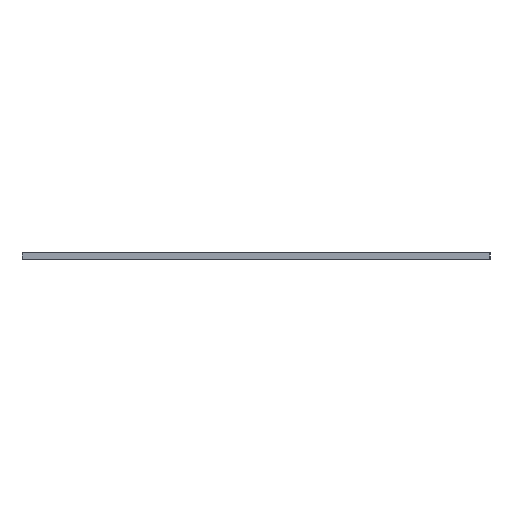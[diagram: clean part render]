
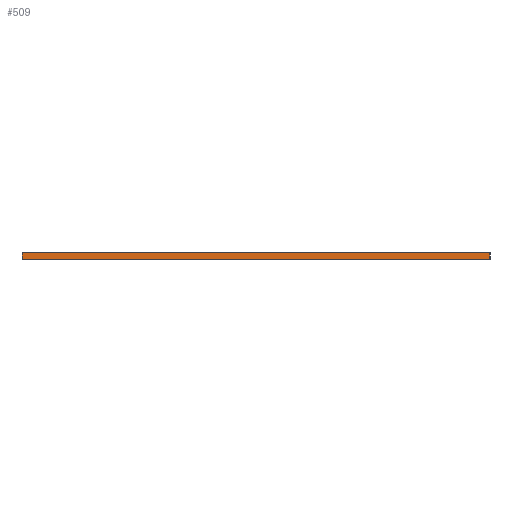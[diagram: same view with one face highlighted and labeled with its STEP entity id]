
A CAD part, left-side view. The second image highlights one B-rep face of the part: STEP entity #509.
In plain terms, the highlighted planar face has unit normal (-1, 0, 0).
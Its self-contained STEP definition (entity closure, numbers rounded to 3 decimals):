
#8 = LINE ( 'NONE', #1774, #3037 ) ;
#307 = ORIENTED_EDGE ( 'NONE', *, *, #2621, .T. ) ;
#320 = VECTOR ( 'NONE', #2618, 1000. ) ;
#332 = ORIENTED_EDGE ( 'NONE', *, *, #2533, .T. ) ;
#509 = ADVANCED_FACE ( 'NONE', ( #2812 ), #1197, .T. ) ;
#540 = ORIENTED_EDGE ( 'NONE', *, *, #2605, .F. ) ;
#549 = ORIENTED_EDGE ( 'NONE', *, *, #2600, .F. ) ;
#550 = EDGE_LOOP ( 'NONE', ( #549, #540, #307, #332 ) ) ;
#756 = LINE ( 'NONE', #2572, #320 ) ;
#1049 = LINE ( 'NONE', #1933, #1188 ) ;
#1057 = DIRECTION ( 'NONE',  ( 0., 0., 1. ) ) ;
#1075 = DIRECTION ( 'NONE',  ( -1., 0., 0. ) ) ;
#1188 = VECTOR ( 'NONE', #1904, 1000. ) ;
#1197 = PLANE ( 'NONE',  #1409 ) ;
#1211 = CARTESIAN_POINT ( 'NONE',  ( 1483.096, 653.345, -2. ) ) ;
#1256 = CARTESIAN_POINT ( 'NONE',  ( 1483.096, 787.095, -2. ) ) ;
#1388 = CARTESIAN_POINT ( 'NONE',  ( 1483.096, 787.095, 0. ) ) ;
#1409 = AXIS2_PLACEMENT_3D ( 'NONE', #1256, #1075, #1057 ) ;
#1710 = DIRECTION ( 'NONE',  ( 0., -1., 0. ) ) ;
#1740 = VECTOR ( 'NONE', #2054, 1000. ) ;
#1774 = CARTESIAN_POINT ( 'NONE',  ( 1483.096, 787.095, -2. ) ) ;
#1904 = DIRECTION ( 'NONE',  ( 0., 0., 1. ) ) ;
#1933 = CARTESIAN_POINT ( 'NONE',  ( 1483.096, 787.095, -2. ) ) ;
#2019 = LINE ( 'NONE', #2071, #1740 ) ;
#2054 = DIRECTION ( 'NONE',  ( 0., -1., 0. ) ) ;
#2071 = CARTESIAN_POINT ( 'NONE',  ( 1483.096, 787.095, 0. ) ) ;
#2533 = EDGE_CURVE ( 'NONE', #3090, #2903, #756, .T. ) ;
#2572 = CARTESIAN_POINT ( 'NONE',  ( 1483.096, 653.345, -2. ) ) ;
#2600 = EDGE_CURVE ( 'NONE', #3498, #2903, #2019, .T. ) ;
#2605 = EDGE_CURVE ( 'NONE', #3138, #3498, #1049, .T. ) ;
#2618 = DIRECTION ( 'NONE',  ( 0., 0., 1. ) ) ;
#2621 = EDGE_CURVE ( 'NONE', #3138, #3090, #8, .T. ) ;
#2704 = CARTESIAN_POINT ( 'NONE',  ( 1483.096, 787.095, -2. ) ) ;
#2733 = CARTESIAN_POINT ( 'NONE',  ( 1483.096, 653.345, 0. ) ) ;
#2812 = FACE_OUTER_BOUND ( 'NONE', #550, .T. ) ;
#2903 = VERTEX_POINT ( 'NONE', #2733 ) ;
#3037 = VECTOR ( 'NONE', #1710, 1000. ) ;
#3090 = VERTEX_POINT ( 'NONE', #1211 ) ;
#3138 = VERTEX_POINT ( 'NONE', #2704 ) ;
#3498 = VERTEX_POINT ( 'NONE', #1388 ) ;
